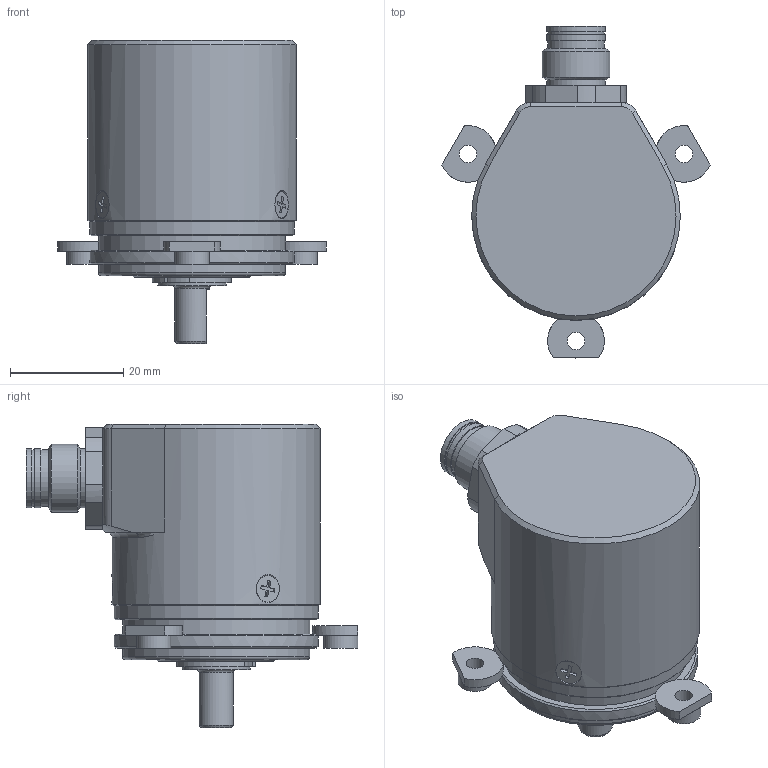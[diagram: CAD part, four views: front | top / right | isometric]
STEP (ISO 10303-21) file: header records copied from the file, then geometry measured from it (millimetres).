
FILE_DESCRIPTION(/* description */ ('Unknown'),/* implementation_level */ '2;1');
FILE_NAME(/* name */ 'EA_EAM_36B_M12',/* time_stamp */ '2019-06-26T09:49:37+02:00',/* author */ ('Unknown'),/* organization */ ('Unknown'),/* preprocessor_version */ 'ST-DEVELOPER v16.7',/* originating_system */ 'DEX',/* authorisation */ $);
FILE_SCHEMA (('AUTOMOTIVE_DESIGN {1 0 10303 214 3 1 1}'));
Length unit declared in the file: millimetre
Products named in the file (1): EA_EAM_36B_M12
Bounding box: 47.3 x 58.5 x 53.5 mm (x, y, z)
Volume: 24692.1 mm3; surface area: 18697 mm2
Topology: 1 solids, 16 shells, 392 faces, 900 edges, 589 vertices
Faces by surface type: plane 165, cylinder 133, cone 72, torus 20, bspline 2
Full cylindrical faces by diameter (mm): 0.9 x16, 1.221 x2, 1.45 x1, 1.5 x8, 1.6 x2, 2 x1, 2.013 x3, 2.459 x4, 2.5 x3, 2.7 x3, 3 x3, 3.1 x3, 6 x4, 8 x2, 8.25 x1, 10 x2, 10.4 x3, 11.8 x1, 12 x5, 12.4 x1, 13 x1, 14.5 x4, 14.53 x1, 15.2 x1, 18.5 x4, 19 x1, 21 x5, 21.1 x2, 31.3 x1, 33 x2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
Entity records: 12545 total; most frequent: CARTESIAN_POINT 1943, DIRECTION 1697, ORIENTED_EDGE 1280, AXIS2_PLACEMENT_3D 736, FACE_BOUND 646, EDGE_CURVE 640, EDGE_LOOP 636, VERTEX_POINT 506
